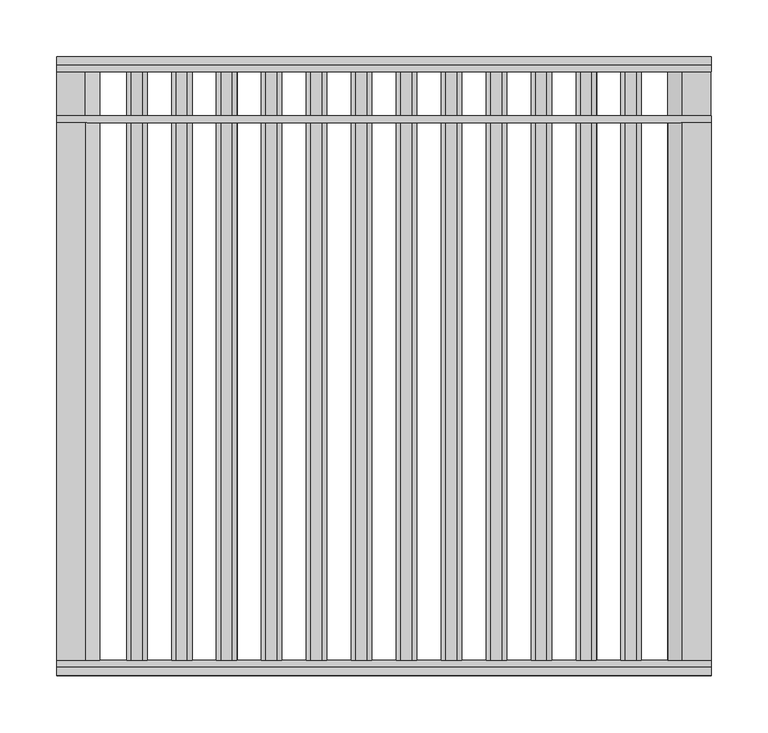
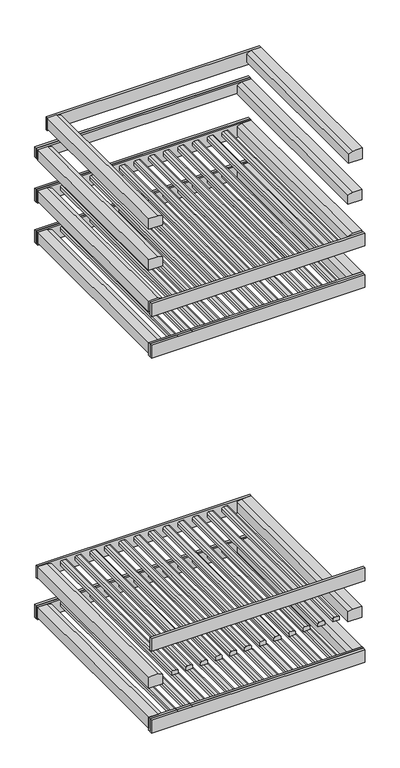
"""IFC4 building model written with IfcOpenShell, lengths in millimetres: proxy geometry, 12443600_AUS_KWT4999F_OBWS : 39499962_AUS_12443600_KWT4999F_OBWS."""

from ifc_helpers import new_model, si_unit, point, frame, frame_2d, origin, place, context, project, spatial, polyline, circle_curve, trimmed, segment, composite_curve, outline, extrude, source, transform, mapped, element, save


def specialty_equipment_cc0d7ca1(model_context):
    return source(origin(), model_context, "Body", "SweptSolid", [
        extrude(outline(polyline([(287.5, -697.1349254), (-287.5, -697.1349254), (-287.5, -689.7655853), (287.5, -689.7655853), (287.5, -697.1349254)])), frame((0.0, 0.0, 614.7318744), z_axis=(0.0, 0.0, 1.0), x_axis=(1.0, 0.0, 0.0)), (0.0, 0.0, 1.0), 36.2681256),
        extrude(outline(composite_curve([segment(polyline([(409.0, -226.25), (401.0, -226.25), (401.0, -208.25), (409.0, -208.25)]), True, "CONTINUOUS"), segment(trimmed(circle_curve(frame_2d((409.0, -212.25)), 4.0), [point((409.0, -208.25))], [point((413.0, -212.25))], False, "CARTESIAN"), True, "CONTINUOUS"), segment(polyline([(413.0, -212.25), (413.0, -222.25)]), True, "CONTINUOUS"), segment(trimmed(circle_curve(frame_2d((409.0, -222.25)), 4.0), [point((413.0, -222.25))], [point((409.0, -226.25))], False, "CARTESIAN"), True, "CONTINUOUS")], self_intersect=False)), frame((0.0, -683.7655853, 0.0), z_axis=(0.0, 1.0, 0.0), x_axis=(0.0, 0.0, 1.0)), (0.0, 0.0, 1.0), 517.2655853),
        extrude(outline(composite_curve([segment(polyline([(409.0, -186.75), (401.0, -186.75), (401.0, -168.75), (409.0, -168.75)]), True, "CONTINUOUS"), segment(trimmed(circle_curve(frame_2d((409.0, -172.75)), 4.0), [point((409.0, -168.75))], [point((413.0, -172.75))], False, "CARTESIAN"), True, "CONTINUOUS"), segment(polyline([(413.0, -172.75), (413.0, -182.75)]), True, "CONTINUOUS"), segment(trimmed(circle_curve(frame_2d((409.0, -182.75)), 4.0), [point((413.0, -182.75))], [point((409.0, -186.75))], False, "CARTESIAN"), True, "CONTINUOUS")], self_intersect=False)), frame((0.0, -683.7655853, 0.0), z_axis=(0.0, 1.0, 0.0), x_axis=(0.0, 0.0, 1.0)), (0.0, 0.0, 1.0), 517.2655853),
        extrude(outline(composite_curve([segment(polyline([(409.0, -147.25), (401.0, -147.25), (401.0, -129.25), (409.0, -129.25)]), True, "CONTINUOUS"), segment(trimmed(circle_curve(frame_2d((409.0, -133.25)), 4.0), [point((409.0, -129.25))], [point((413.0, -133.25))], False, "CARTESIAN"), True, "CONTINUOUS"), segment(polyline([(413.0, -133.25), (413.0, -143.25)]), True, "CONTINUOUS"), segment(trimmed(circle_curve(frame_2d((409.0, -143.25)), 4.0), [point((413.0, -143.25))], [point((409.0, -147.25))], False, "CARTESIAN"), True, "CONTINUOUS")], self_intersect=False)), frame((0.0, -683.7655853, 0.0), z_axis=(0.0, 1.0, 0.0), x_axis=(0.0, 0.0, 1.0)), (0.0, 0.0, 1.0), 517.2655853),
        extrude(outline(composite_curve([segment(trimmed(circle_curve(frame_2d((409.0, 143.25)), 4.0), [point((409.0, 147.25))], [point((413.0, 143.25))], False, "CARTESIAN"), True, "CONTINUOUS"), segment(polyline([(413.0, 143.25), (413.0, 133.25)]), True, "CONTINUOUS"), segment(trimmed(circle_curve(frame_2d((409.0, 133.25)), 4.0), [point((413.0, 133.25))], [point((409.0, 129.25))], False, "CARTESIAN"), True, "CONTINUOUS"), segment(polyline([(409.0, 129.25), (401.0, 129.25), (401.0, 147.25), (409.0, 147.25)]), True, "CONTINUOUS")], self_intersect=False)), frame((0.0, -683.7655853, 0.0), z_axis=(0.0, 1.0, 0.0), x_axis=(0.0, 0.0, 1.0)), (0.0, 0.0, 1.0), 517.2655853),
        extrude(outline(composite_curve([segment(trimmed(circle_curve(frame_2d((409.0, 64.25)), 4.0), [point((409.0, 68.25))], [point((413.0, 64.25))], False, "CARTESIAN"), True, "CONTINUOUS"), segment(polyline([(413.0, 64.25), (413.0, 54.25)]), True, "CONTINUOUS"), segment(trimmed(circle_curve(frame_2d((409.0, 54.25)), 4.0), [point((413.0, 54.25))], [point((409.0, 50.25))], False, "CARTESIAN"), True, "CONTINUOUS"), segment(polyline([(409.0, 50.25), (401.0, 50.25), (401.0, 68.25), (409.0, 68.25)]), True, "CONTINUOUS")], self_intersect=False)), frame((0.0, -683.7655853, 0.0), z_axis=(0.0, 1.0, 0.0), x_axis=(0.0, 0.0, 1.0)), (0.0, 0.0, 1.0), 517.2655853),
        extrude(outline(composite_curve([segment(trimmed(circle_curve(frame_2d((409.0, 103.75)), 4.0), [point((409.0, 107.75))], [point((413.0, 103.75))], False, "CARTESIAN"), True, "CONTINUOUS"), segment(polyline([(413.0, 103.75), (413.0, 93.75)]), True, "CONTINUOUS"), segment(trimmed(circle_curve(frame_2d((409.0, 93.75)), 4.0), [point((413.0, 93.75))], [point((409.0, 89.75))], False, "CARTESIAN"), True, "CONTINUOUS"), segment(polyline([(409.0, 89.75), (401.0, 89.75), (401.0, 107.75), (409.0, 107.75)]), True, "CONTINUOUS")], self_intersect=False)), frame((0.0, -683.7655853, 0.0), z_axis=(0.0, 1.0, 0.0), x_axis=(0.0, 0.0, 1.0)), (0.0, 0.0, 1.0), 517.2655853),
        extrude(outline(composite_curve([segment(polyline([(409.0, -107.75), (401.0, -107.75), (401.0, -89.75), (409.0, -89.75)]), True, "CONTINUOUS"), segment(trimmed(circle_curve(frame_2d((409.0, -93.75)), 4.0), [point((409.0, -89.75))], [point((413.0, -93.75))], False, "CARTESIAN"), True, "CONTINUOUS"), segment(polyline([(413.0, -93.75), (413.0, -103.75)]), True, "CONTINUOUS"), segment(trimmed(circle_curve(frame_2d((409.0, -103.75)), 4.0), [point((413.0, -103.75))], [point((409.0, -107.75))], False, "CARTESIAN"), True, "CONTINUOUS")], self_intersect=False)), frame((0.0, -683.7655853, 0.0), z_axis=(0.0, 1.0, 0.0), x_axis=(0.0, 0.0, 1.0)), (0.0, 0.0, 1.0), 517.2655853),
        extrude(outline(composite_curve([segment(trimmed(circle_curve(frame_2d((409.0, -54.25)), 4.0), [point((409.0, -50.25))], [point((413.0, -54.25))], False, "CARTESIAN"), True, "CONTINUOUS"), segment(polyline([(413.0, -54.25), (413.0, -64.25)]), True, "CONTINUOUS"), segment(trimmed(circle_curve(frame_2d((409.0, -64.25)), 4.0), [point((413.0, -64.25))], [point((409.0, -68.25))], False, "CARTESIAN"), True, "CONTINUOUS"), segment(polyline([(409.0, -68.25), (401.0, -68.25), (401.0, -50.25), (409.0, -50.25)]), True, "CONTINUOUS")], self_intersect=False)), frame((0.0, -683.7655853, 0.0), z_axis=(0.0, 1.0, 0.0), x_axis=(0.0, 0.0, 1.0)), (0.0, 0.0, 1.0), 517.2655853),
        extrude(outline(composite_curve([segment(trimmed(circle_curve(frame_2d((409.0, 24.75)), 4.0), [point((409.0, 28.75))], [point((413.0, 24.75))], False, "CARTESIAN"), True, "CONTINUOUS"), segment(polyline([(413.0, 24.75), (413.0, 14.75)]), True, "CONTINUOUS"), segment(trimmed(circle_curve(frame_2d((409.0, 14.75)), 4.0), [point((413.0, 14.75))], [point((409.0, 10.75))], False, "CARTESIAN"), True, "CONTINUOUS"), segment(polyline([(409.0, 10.75), (401.0, 10.75), (401.0, 28.75), (409.0, 28.75)]), True, "CONTINUOUS")], self_intersect=False)), frame((0.0, -683.7655853, 0.0), z_axis=(0.0, 1.0, 0.0), x_axis=(0.0, 0.0, 1.0)), (0.0, 0.0, 1.0), 517.2655853),
        extrude(outline(composite_curve([segment(polyline([(409.0, -28.75), (401.0, -28.75), (401.0, -10.75), (409.0, -10.75)]), True, "CONTINUOUS"), segment(trimmed(circle_curve(frame_2d((409.0, -14.75)), 4.0), [point((409.0, -10.75))], [point((413.0, -14.75))], False, "CARTESIAN"), True, "CONTINUOUS"), segment(polyline([(413.0, -14.75), (413.0, -24.75)]), True, "CONTINUOUS"), segment(trimmed(circle_curve(frame_2d((409.0, -24.75)), 4.0), [point((413.0, -24.75))], [point((409.0, -28.75))], False, "CARTESIAN"), True, "CONTINUOUS")], self_intersect=False)), frame((0.0, -683.7655853, 0.0), z_axis=(0.0, 1.0, 0.0), x_axis=(0.0, 0.0, 1.0)), (0.0, 0.0, 1.0), 517.2655853),
        extrude(outline(composite_curve([segment(trimmed(circle_curve(frame_2d((409.0, 222.25)), 4.0), [point((409.0, 226.25))], [point((413.0, 222.25))], False, "CARTESIAN"), True, "CONTINUOUS"), segment(polyline([(413.0, 222.25), (413.0, 212.25)]), True, "CONTINUOUS"), segment(trimmed(circle_curve(frame_2d((409.0, 212.25)), 4.0), [point((413.0, 212.25))], [point((409.0, 208.25))], False, "CARTESIAN"), True, "CONTINUOUS"), segment(polyline([(409.0, 208.25), (401.0, 208.25), (401.0, 226.25), (409.0, 226.25)]), True, "CONTINUOUS")], self_intersect=False)), frame((0.0, -683.7655853, 0.0), z_axis=(0.0, 1.0, 0.0), x_axis=(0.0, 0.0, 1.0)), (0.0, 0.0, 1.0), 517.2655853),
        extrude(outline(composite_curve([segment(trimmed(circle_curve(frame_2d((409.0, 182.75)), 4.0), [point((409.0, 186.75))], [point((413.0, 182.75))], False, "CARTESIAN"), True, "CONTINUOUS"), segment(polyline([(413.0, 182.75), (413.0, 172.75)]), True, "CONTINUOUS"), segment(trimmed(circle_curve(frame_2d((409.0, 172.75)), 4.0), [point((413.0, 172.75))], [point((409.0, 168.75))], False, "CARTESIAN"), True, "CONTINUOUS"), segment(polyline([(409.0, 168.75), (401.0, 168.75), (401.0, 186.75), (409.0, 186.75)]), True, "CONTINUOUS")], self_intersect=False)), frame((0.0, -683.7655853, 0.0), z_axis=(0.0, 1.0, 0.0), x_axis=(0.0, 0.0, 1.0)), (0.0, 0.0, 1.0), 517.2655853),
        extrude(outline(composite_curve([segment(polyline([(525.0, -226.1827793), (517.0, -226.1827793), (517.0, -208.1827793), (525.0, -208.1827793)]), True, "CONTINUOUS"), segment(trimmed(circle_curve(frame_2d((525.0, -212.1827793)), 4.0), [point((525.0, -208.1827793))], [point((529.0, -212.1827793))], False, "CARTESIAN"), True, "CONTINUOUS"), segment(polyline([(529.0, -212.1827793), (529.0, -222.1827793)]), True, "CONTINUOUS"), segment(trimmed(circle_curve(frame_2d((525.0, -222.1827793)), 4.0), [point((529.0, -222.1827793))], [point((525.0, -226.1827793))], False, "CARTESIAN"), True, "CONTINUOUS")], self_intersect=False)), frame((0.0, -683.7655853, 0.0), z_axis=(0.0, 1.0, 0.0), x_axis=(0.0, 0.0, 1.0)), (0.0, 0.0, 1.0), 517.2655853),
        extrude(outline(composite_curve([segment(polyline([(525.0, -186.6827793), (517.0, -186.6827793), (517.0, -168.6827793), (525.0, -168.6827793)]), True, "CONTINUOUS"), segment(trimmed(circle_curve(frame_2d((525.0, -172.6827793)), 4.0), [point((525.0, -168.6827793))], [point((529.0, -172.6827793))], False, "CARTESIAN"), True, "CONTINUOUS"), segment(polyline([(529.0, -172.6827793), (529.0, -182.6827793)]), True, "CONTINUOUS"), segment(trimmed(circle_curve(frame_2d((525.0, -182.6827793)), 4.0), [point((529.0, -182.6827793))], [point((525.0, -186.6827793))], False, "CARTESIAN"), True, "CONTINUOUS")], self_intersect=False)), frame((0.0, -683.7655853, 0.0), z_axis=(0.0, 1.0, 0.0), x_axis=(0.0, 0.0, 1.0)), (0.0, 0.0, 1.0), 517.2655853),
        extrude(outline(composite_curve([segment(polyline([(525.0, -147.1827793), (517.0, -147.1827793), (517.0, -129.1827793), (525.0, -129.1827793)]), True, "CONTINUOUS"), segment(trimmed(circle_curve(frame_2d((525.0, -133.1827793)), 4.0), [point((525.0, -129.1827793))], [point((529.0, -133.1827793))], False, "CARTESIAN"), True, "CONTINUOUS"), segment(polyline([(529.0, -133.1827793), (529.0, -143.1827793)]), True, "CONTINUOUS"), segment(trimmed(circle_curve(frame_2d((525.0, -143.1827793)), 4.0), [point((529.0, -143.1827793))], [point((525.0, -147.1827793))], False, "CARTESIAN"), True, "CONTINUOUS")], self_intersect=False)), frame((0.0, -683.7655853, 0.0), z_axis=(0.0, 1.0, 0.0), x_axis=(0.0, 0.0, 1.0)), (0.0, 0.0, 1.0), 517.2655853),
        extrude(outline(composite_curve([segment(trimmed(circle_curve(frame_2d((525.0, 143.3172207)), 4.0), [point((525.0, 147.3172207))], [point((529.0, 143.3172207))], False, "CARTESIAN"), True, "CONTINUOUS"), segment(polyline([(529.0, 143.3172207), (529.0, 133.3172207)]), True, "CONTINUOUS"), segment(trimmed(circle_curve(frame_2d((525.0, 133.3172207)), 4.0), [point((529.0, 133.3172207))], [point((525.0, 129.3172207))], False, "CARTESIAN"), True, "CONTINUOUS"), segment(polyline([(525.0, 129.3172207), (517.0, 129.3172207), (517.0, 147.3172207), (525.0, 147.3172207)]), True, "CONTINUOUS")], self_intersect=False)), frame((0.0, -683.7655853, 0.0), z_axis=(0.0, 1.0, 0.0), x_axis=(0.0, 0.0, 1.0)), (0.0, 0.0, 1.0), 517.2655853),
        extrude(outline(composite_curve([segment(trimmed(circle_curve(frame_2d((525.0, 64.3172207)), 4.0), [point((525.0, 68.3172207))], [point((529.0, 64.3172207))], False, "CARTESIAN"), True, "CONTINUOUS"), segment(polyline([(529.0, 64.3172207), (529.0, 54.3172207)]), True, "CONTINUOUS"), segment(trimmed(circle_curve(frame_2d((525.0, 54.3172207)), 4.0), [point((529.0, 54.3172207))], [point((525.0, 50.3172207))], False, "CARTESIAN"), True, "CONTINUOUS"), segment(polyline([(525.0, 50.3172207), (517.0, 50.3172207), (517.0, 68.3172207), (525.0, 68.3172207)]), True, "CONTINUOUS")], self_intersect=False)), frame((0.0, -683.7655853, 0.0), z_axis=(0.0, 1.0, 0.0), x_axis=(0.0, 0.0, 1.0)), (0.0, 0.0, 1.0), 517.2655853),
        extrude(outline(composite_curve([segment(trimmed(circle_curve(frame_2d((525.0, 103.8172207)), 4.0), [point((525.0, 107.8172207))], [point((529.0, 103.8172207))], False, "CARTESIAN"), True, "CONTINUOUS"), segment(polyline([(529.0, 103.8172207), (529.0, 93.8172207)]), True, "CONTINUOUS"), segment(trimmed(circle_curve(frame_2d((525.0, 93.8172207)), 4.0), [point((529.0, 93.8172207))], [point((525.0, 89.8172207))], False, "CARTESIAN"), True, "CONTINUOUS"), segment(polyline([(525.0, 89.8172207), (517.0, 89.8172207), (517.0, 107.8172207), (525.0, 107.8172207)]), True, "CONTINUOUS")], self_intersect=False)), frame((0.0, -683.7655853, 0.0), z_axis=(0.0, 1.0, 0.0), x_axis=(0.0, 0.0, 1.0)), (0.0, 0.0, 1.0), 517.2655853),
        extrude(outline(composite_curve([segment(polyline([(525.0, -107.6827793), (517.0, -107.6827793), (517.0, -89.6827793), (525.0, -89.6827793)]), True, "CONTINUOUS"), segment(trimmed(circle_curve(frame_2d((525.0, -93.6827793)), 4.0), [point((525.0, -89.6827793))], [point((529.0, -93.6827793))], False, "CARTESIAN"), True, "CONTINUOUS"), segment(polyline([(529.0, -93.6827793), (529.0, -103.6827793)]), True, "CONTINUOUS"), segment(trimmed(circle_curve(frame_2d((525.0, -103.6827793)), 4.0), [point((529.0, -103.6827793))], [point((525.0, -107.6827793))], False, "CARTESIAN"), True, "CONTINUOUS")], self_intersect=False)), frame((0.0, -683.7655853, 0.0), z_axis=(0.0, 1.0, 0.0), x_axis=(0.0, 0.0, 1.0)), (0.0, 0.0, 1.0), 517.2655853),
        extrude(outline(composite_curve([segment(trimmed(circle_curve(frame_2d((525.0, -54.1827793)), 4.0), [point((525.0, -50.1827793))], [point((529.0, -54.1827793))], False, "CARTESIAN"), True, "CONTINUOUS"), segment(polyline([(529.0, -54.1827793), (529.0, -64.1827793)]), True, "CONTINUOUS"), segment(trimmed(circle_curve(frame_2d((525.0, -64.1827793)), 4.0), [point((529.0, -64.1827793))], [point((525.0, -68.1827793))], False, "CARTESIAN"), True, "CONTINUOUS"), segment(polyline([(525.0, -68.1827793), (517.0, -68.1827793), (517.0, -50.1827793), (525.0, -50.1827793)]), True, "CONTINUOUS")], self_intersect=False)), frame((0.0, -683.7655853, 0.0), z_axis=(0.0, 1.0, 0.0), x_axis=(0.0, 0.0, 1.0)), (0.0, 0.0, 1.0), 517.2655853),
        extrude(outline(composite_curve([segment(trimmed(circle_curve(frame_2d((525.0, 24.8172207)), 4.0), [point((525.0, 28.8172207))], [point((529.0, 24.8172207))], False, "CARTESIAN"), True, "CONTINUOUS"), segment(polyline([(529.0, 24.8172207), (529.0, 14.8172207)]), True, "CONTINUOUS"), segment(trimmed(circle_curve(frame_2d((525.0, 14.8172207)), 4.0), [point((529.0, 14.8172207))], [point((525.0, 10.8172207))], False, "CARTESIAN"), True, "CONTINUOUS"), segment(polyline([(525.0, 10.8172207), (517.0, 10.8172207), (517.0, 28.8172207), (525.0, 28.8172207)]), True, "CONTINUOUS")], self_intersect=False)), frame((0.0, -683.7655853, 0.0), z_axis=(0.0, 1.0, 0.0), x_axis=(0.0, 0.0, 1.0)), (0.0, 0.0, 1.0), 517.2655853),
        extrude(outline(composite_curve([segment(polyline([(525.0, -28.6827793), (517.0, -28.6827793), (517.0, -10.6827793), (525.0, -10.6827793)]), True, "CONTINUOUS"), segment(trimmed(circle_curve(frame_2d((525.0, -14.6827793)), 4.0), [point((525.0, -10.6827793))], [point((529.0, -14.6827793))], False, "CARTESIAN"), True, "CONTINUOUS"), segment(polyline([(529.0, -14.6827793), (529.0, -24.6827793)]), True, "CONTINUOUS"), segment(trimmed(circle_curve(frame_2d((525.0, -24.6827793)), 4.0), [point((529.0, -24.6827793))], [point((525.0, -28.6827793))], False, "CARTESIAN"), True, "CONTINUOUS")], self_intersect=False)), frame((0.0, -683.7655853, 0.0), z_axis=(0.0, 1.0, 0.0), x_axis=(0.0, 0.0, 1.0)), (0.0, 0.0, 1.0), 517.2655853),
        extrude(outline(composite_curve([segment(trimmed(circle_curve(frame_2d((525.0, 222.3172207)), 4.0), [point((525.0, 226.3172207))], [point((529.0, 222.3172207))], False, "CARTESIAN"), True, "CONTINUOUS"), segment(polyline([(529.0, 222.3172207), (529.0, 212.3172207)]), True, "CONTINUOUS"), segment(trimmed(circle_curve(frame_2d((525.0, 212.3172207)), 4.0), [point((529.0, 212.3172207))], [point((525.0, 208.3172207))], False, "CARTESIAN"), True, "CONTINUOUS"), segment(polyline([(525.0, 208.3172207), (517.0, 208.3172207), (517.0, 226.3172207), (525.0, 226.3172207)]), True, "CONTINUOUS")], self_intersect=False)), frame((0.0, -683.7655853, 0.0), z_axis=(0.0, 1.0, 0.0), x_axis=(0.0, 0.0, 1.0)), (0.0, 0.0, 1.0), 517.2655853),
        extrude(outline(composite_curve([segment(trimmed(circle_curve(frame_2d((525.0, 182.8172207)), 4.0), [point((525.0, 186.8172207))], [point((529.0, 182.8172207))], False, "CARTESIAN"), True, "CONTINUOUS"), segment(polyline([(529.0, 182.8172207), (529.0, 172.8172207)]), True, "CONTINUOUS"), segment(trimmed(circle_curve(frame_2d((525.0, 172.8172207)), 4.0), [point((529.0, 172.8172207))], [point((525.0, 168.8172207))], False, "CARTESIAN"), True, "CONTINUOUS"), segment(polyline([(525.0, 168.8172207), (517.0, 168.8172207), (517.0, 186.8172207), (525.0, 186.8172207)]), True, "CONTINUOUS")], self_intersect=False)), frame((0.0, -683.7655853, 0.0), z_axis=(0.0, 1.0, 0.0), x_axis=(0.0, 0.0, 1.0)), (0.0, 0.0, 1.0), 517.2655853),
        extrude(outline(polyline([(287.5, -160.5), (-287.5, -160.5), (-287.5, -153.5), (287.5, -153.5), (287.5, -160.5)])), frame((0.0, 0.0, 382.7318744), z_axis=(0.0, 0.0, 1.0), x_axis=(1.0, 0.0, 0.0)), (0.0, 0.0, 1.0), 36.2681256),
        extrude(outline(polyline([(389.0, -250.0), (414.4686279, -250.0), (419.0, -262.4499969), (419.0, -287.5), (389.0, -287.5), (389.0, -250.0)])), frame((0.0, -683.7655853, 0.0), z_axis=(0.0, 1.0, 0.0), x_axis=(0.0, 0.0, 1.0)), (0.0, 0.0, 1.0), 517.2655853),
        extrude(outline(polyline([(389.0, 249.6000061), (389.0, 287.3000031), (419.0, 287.3000031), (419.0, 262.0500031), (414.4686279, 249.6000061), (389.0, 249.6000061)])), frame((0.0, -683.7655853, 0.0), z_axis=(0.0, 1.0, 0.0), x_axis=(0.0, 0.0, 1.0)), (0.0, 0.0, 1.0), 517.2655853),
        extrude(outline(polyline([(502.5, -250.0), (529.4686279, -250.0), (534.0, -262.4499969), (534.0, -287.5), (502.5, -287.5), (502.5, -250.0)])), frame((0.0, -683.7655853, 0.0), z_axis=(0.0, 1.0, 0.0), x_axis=(0.0, 0.0, 1.0)), (0.0, 0.0, 1.0), 517.2655853),
        extrude(outline(polyline([(502.5, 249.6000061), (502.5, 287.3000031), (534.0, 287.3000031), (534.0, 262.0500031), (530.9007142, 249.6000061), (502.5, 249.6000061)])), frame((0.0, -683.7655853, 0.0), z_axis=(0.0, 1.0, 0.0), x_axis=(0.0, 0.0, 1.0)), (0.0, 0.0, 1.0), 517.2655853),
        extrude(outline(polyline([(287.5, -166.5), (-287.5, -166.5), (-287.5, -160.5), (287.5, -160.5), (287.5, -166.5)])), frame((0.0, 0.0, 382.7318744), z_axis=(0.0, 0.0, 1.0), x_axis=(1.0, 0.0, 0.0)), (0.0, 0.0, 1.0), 36.2681256),
        extrude(outline(polyline([(287.5, -166.5), (-287.5, -166.5), (-287.5, -160.5), (287.5, -160.5), (287.5, -166.5)])), frame((0.0, 0.0, 499.2318744), z_axis=(0.0, 0.0, 1.0), x_axis=(1.0, 0.0, 0.0)), (0.0, 0.0, 1.0), 35.7681256),
        extrude(outline(polyline([(287.5, -689.7655853), (-287.5, -689.7655853), (-287.5, -683.7655853), (287.5, -683.7655853), (287.5, -689.7655853)])), frame((0.0, 0.0, 383.0), z_axis=(0.0, 0.0, 1.0), x_axis=(1.0, 0.0, 0.0)), (0.0, 0.0, 1.0), 36.0),
        extrude(outline(polyline([(287.5, -697.1349254), (-287.5, -697.1349254), (-287.5, -689.7655853), (287.5, -689.7655853), (287.5, -697.1349254)])), frame((0.0, 0.0, 382.7318744), z_axis=(0.0, 0.0, 1.0), x_axis=(1.0, 0.0, 0.0)), (0.0, 0.0, 1.0), 36.2681256),
        extrude(outline(composite_curve([segment(polyline([(1475.2318744, -226.25), (1467.2318744, -226.25), (1467.2318744, -208.25), (1475.2318744, -208.25)]), True, "CONTINUOUS"), segment(trimmed(circle_curve(frame_2d((1475.2318744, -212.25)), 4.0), [point((1475.2318744, -208.25))], [point((1479.2318744, -212.25))], False, "CARTESIAN"), True, "CONTINUOUS"), segment(polyline([(1479.2318744, -212.25), (1479.2318744, -222.25)]), True, "CONTINUOUS"), segment(trimmed(circle_curve(frame_2d((1475.2318744, -222.25)), 4.0), [point((1479.2318744, -222.25))], [point((1475.2318744, -226.25))], False, "CARTESIAN"), True, "CONTINUOUS")], self_intersect=False)), frame((0.0, -683.7655853, 0.0), z_axis=(0.0, 1.0, 0.0), x_axis=(0.0, 0.0, 1.0)), (0.0, 0.0, 1.0), 517.2655853),
        extrude(outline(composite_curve([segment(polyline([(1475.2318744, -186.75), (1467.2318744, -186.75), (1467.2318744, -168.75), (1475.2318744, -168.75)]), True, "CONTINUOUS"), segment(trimmed(circle_curve(frame_2d((1475.2318744, -172.75)), 4.0), [point((1475.2318744, -168.75))], [point((1479.2318744, -172.75))], False, "CARTESIAN"), True, "CONTINUOUS"), segment(polyline([(1479.2318744, -172.75), (1479.2318744, -182.75)]), True, "CONTINUOUS"), segment(trimmed(circle_curve(frame_2d((1475.2318744, -182.75)), 4.0), [point((1479.2318744, -182.75))], [point((1475.2318744, -186.75))], False, "CARTESIAN"), True, "CONTINUOUS")], self_intersect=False)), frame((0.0, -683.7655853, 0.0), z_axis=(0.0, 1.0, 0.0), x_axis=(0.0, 0.0, 1.0)), (0.0, 0.0, 1.0), 517.2655853),
        extrude(outline(composite_curve([segment(polyline([(1475.2318744, -147.25), (1467.2318744, -147.25), (1467.2318744, -129.25), (1475.2318744, -129.25)]), True, "CONTINUOUS"), segment(trimmed(circle_curve(frame_2d((1475.2318744, -133.25)), 4.0), [point((1475.2318744, -129.25))], [point((1479.2318744, -133.25))], False, "CARTESIAN"), True, "CONTINUOUS"), segment(polyline([(1479.2318744, -133.25), (1479.2318744, -143.25)]), True, "CONTINUOUS"), segment(trimmed(circle_curve(frame_2d((1475.2318744, -143.25)), 4.0), [point((1479.2318744, -143.25))], [point((1475.2318744, -147.25))], False, "CARTESIAN"), True, "CONTINUOUS")], self_intersect=False)), frame((0.0, -683.7655853, 0.0), z_axis=(0.0, 1.0, 0.0), x_axis=(0.0, 0.0, 1.0)), (0.0, 0.0, 1.0), 517.2655853),
        extrude(outline(composite_curve([segment(trimmed(circle_curve(frame_2d((1475.2318744, 143.25)), 4.0), [point((1475.2318744, 147.25))], [point((1479.2318744, 143.25))], False, "CARTESIAN"), True, "CONTINUOUS"), segment(polyline([(1479.2318744, 143.25), (1479.2318744, 133.25)]), True, "CONTINUOUS"), segment(trimmed(circle_curve(frame_2d((1475.2318744, 133.25)), 4.0), [point((1479.2318744, 133.25))], [point((1475.2318744, 129.25))], False, "CARTESIAN"), True, "CONTINUOUS"), segment(polyline([(1475.2318744, 129.25), (1467.2318744, 129.25), (1467.2318744, 147.25), (1475.2318744, 147.25)]), True, "CONTINUOUS")], self_intersect=False)), frame((0.0, -683.7655853, 0.0), z_axis=(0.0, 1.0, 0.0), x_axis=(0.0, 0.0, 1.0)), (0.0, 0.0, 1.0), 517.2655853),
        extrude(outline(composite_curve([segment(trimmed(circle_curve(frame_2d((1475.2318744, 64.25)), 4.0), [point((1475.2318744, 68.25))], [point((1479.2318744, 64.25))], False, "CARTESIAN"), True, "CONTINUOUS"), segment(polyline([(1479.2318744, 64.25), (1479.2318744, 54.25)]), True, "CONTINUOUS"), segment(trimmed(circle_curve(frame_2d((1475.2318744, 54.25)), 4.0), [point((1479.2318744, 54.25))], [point((1475.2318744, 50.25))], False, "CARTESIAN"), True, "CONTINUOUS"), segment(polyline([(1475.2318744, 50.25), (1467.2318744, 50.25), (1467.2318744, 68.25), (1475.2318744, 68.25)]), True, "CONTINUOUS")], self_intersect=False)), frame((0.0, -683.7655853, 0.0), z_axis=(0.0, 1.0, 0.0), x_axis=(0.0, 0.0, 1.0)), (0.0, 0.0, 1.0), 517.2655853),
        extrude(outline(composite_curve([segment(trimmed(circle_curve(frame_2d((1475.2318744, 103.75)), 4.0), [point((1475.2318744, 107.75))], [point((1479.2318744, 103.75))], False, "CARTESIAN"), True, "CONTINUOUS"), segment(polyline([(1479.2318744, 103.75), (1479.2318744, 93.75)]), True, "CONTINUOUS"), segment(trimmed(circle_curve(frame_2d((1475.2318744, 93.75)), 4.0), [point((1479.2318744, 93.75))], [point((1475.2318744, 89.75))], False, "CARTESIAN"), True, "CONTINUOUS"), segment(polyline([(1475.2318744, 89.75), (1467.2318744, 89.75), (1467.2318744, 107.75), (1475.2318744, 107.75)]), True, "CONTINUOUS")], self_intersect=False)), frame((0.0, -683.7655853, 0.0), z_axis=(0.0, 1.0, 0.0), x_axis=(0.0, 0.0, 1.0)), (0.0, 0.0, 1.0), 517.2655853),
        extrude(outline(composite_curve([segment(polyline([(1475.2318744, -107.75), (1467.2318744, -107.75), (1467.2318744, -89.75), (1475.2318744, -89.75)]), True, "CONTINUOUS"), segment(trimmed(circle_curve(frame_2d((1475.2318744, -93.75)), 4.0), [point((1475.2318744, -89.75))], [point((1479.2318744, -93.75))], False, "CARTESIAN"), True, "CONTINUOUS"), segment(polyline([(1479.2318744, -93.75), (1479.2318744, -103.75)]), True, "CONTINUOUS"), segment(trimmed(circle_curve(frame_2d((1475.2318744, -103.75)), 4.0), [point((1479.2318744, -103.75))], [point((1475.2318744, -107.75))], False, "CARTESIAN"), True, "CONTINUOUS")], self_intersect=False)), frame((0.0, -683.7655853, 0.0), z_axis=(0.0, 1.0, 0.0), x_axis=(0.0, 0.0, 1.0)), (0.0, 0.0, 1.0), 517.2655853),
        extrude(outline(composite_curve([segment(trimmed(circle_curve(frame_2d((1475.2318744, -54.25)), 4.0), [point((1475.2318744, -50.25))], [point((1479.2318744, -54.25))], False, "CARTESIAN"), True, "CONTINUOUS"), segment(polyline([(1479.2318744, -54.25), (1479.2318744, -64.25)]), True, "CONTINUOUS"), segment(trimmed(circle_curve(frame_2d((1475.2318744, -64.25)), 4.0), [point((1479.2318744, -64.25))], [point((1475.2318744, -68.25))], False, "CARTESIAN"), True, "CONTINUOUS"), segment(polyline([(1475.2318744, -68.25), (1467.2318744, -68.25), (1467.2318744, -50.25), (1475.2318744, -50.25)]), True, "CONTINUOUS")], self_intersect=False)), frame((0.0, -683.7655853, 0.0), z_axis=(0.0, 1.0, 0.0), x_axis=(0.0, 0.0, 1.0)), (0.0, 0.0, 1.0), 517.2655853),
        extrude(outline(composite_curve([segment(trimmed(circle_curve(frame_2d((1475.2318744, 24.75)), 4.0), [point((1475.2318744, 28.75))], [point((1479.2318744, 24.75))], False, "CARTESIAN"), True, "CONTINUOUS"), segment(polyline([(1479.2318744, 24.75), (1479.2318744, 14.75)]), True, "CONTINUOUS"), segment(trimmed(circle_curve(frame_2d((1475.2318744, 14.75)), 4.0), [point((1479.2318744, 14.75))], [point((1475.2318744, 10.75))], False, "CARTESIAN"), True, "CONTINUOUS"), segment(polyline([(1475.2318744, 10.75), (1467.2318744, 10.75), (1467.2318744, 28.75), (1475.2318744, 28.75)]), True, "CONTINUOUS")], self_intersect=False)), frame((0.0, -683.7655853, 0.0), z_axis=(0.0, 1.0, 0.0), x_axis=(0.0, 0.0, 1.0)), (0.0, 0.0, 1.0), 517.2655853),
        extrude(outline(composite_curve([segment(polyline([(1475.2318744, -28.75), (1467.2318744, -28.75), (1467.2318744, -10.75), (1475.2318744, -10.75)]), True, "CONTINUOUS"), segment(trimmed(circle_curve(frame_2d((1475.2318744, -14.75)), 4.0), [point((1475.2318744, -10.75))], [point((1479.2318744, -14.75))], False, "CARTESIAN"), True, "CONTINUOUS"), segment(polyline([(1479.2318744, -14.75), (1479.2318744, -24.75)]), True, "CONTINUOUS"), segment(trimmed(circle_curve(frame_2d((1475.2318744, -24.75)), 4.0), [point((1479.2318744, -24.75))], [point((1475.2318744, -28.75))], False, "CARTESIAN"), True, "CONTINUOUS")], self_intersect=False)), frame((0.0, -683.7655853, 0.0), z_axis=(0.0, 1.0, 0.0), x_axis=(0.0, 0.0, 1.0)), (0.0, 0.0, 1.0), 517.2655853),
        extrude(outline(composite_curve([segment(trimmed(circle_curve(frame_2d((1475.2318744, 222.25)), 4.0), [point((1475.2318744, 226.25))], [point((1479.2318744, 222.25))], False, "CARTESIAN"), True, "CONTINUOUS"), segment(polyline([(1479.2318744, 222.25), (1479.2318744, 212.25)]), True, "CONTINUOUS"), segment(trimmed(circle_curve(frame_2d((1475.2318744, 212.25)), 4.0), [point((1479.2318744, 212.25))], [point((1475.2318744, 208.25))], False, "CARTESIAN"), True, "CONTINUOUS"), segment(polyline([(1475.2318744, 208.25), (1467.2318744, 208.25), (1467.2318744, 226.25), (1475.2318744, 226.25)]), True, "CONTINUOUS")], self_intersect=False)), frame((0.0, -683.7655853, 0.0), z_axis=(0.0, 1.0, 0.0), x_axis=(0.0, 0.0, 1.0)), (0.0, 0.0, 1.0), 517.2655853),
        extrude(outline(composite_curve([segment(trimmed(circle_curve(frame_2d((1475.2318744, 182.75)), 4.0), [point((1475.2318744, 186.75))], [point((1479.2318744, 182.75))], False, "CARTESIAN"), True, "CONTINUOUS"), segment(polyline([(1479.2318744, 182.75), (1479.2318744, 172.75)]), True, "CONTINUOUS"), segment(trimmed(circle_curve(frame_2d((1475.2318744, 172.75)), 4.0), [point((1479.2318744, 172.75))], [point((1475.2318744, 168.75))], False, "CARTESIAN"), True, "CONTINUOUS"), segment(polyline([(1475.2318744, 168.75), (1467.2318744, 168.75), (1467.2318744, 186.75), (1475.2318744, 186.75)]), True, "CONTINUOUS")], self_intersect=False)), frame((0.0, -683.7655853, 0.0), z_axis=(0.0, 1.0, 0.0), x_axis=(0.0, 0.0, 1.0)), (0.0, 0.0, 1.0), 517.2655853),
        extrude(outline(polyline([(287.5, -160.5), (-287.5, -160.5), (-287.5, -153.5), (287.5, -153.5), (287.5, -160.5)])), frame((0.0, 0.0, 1691.5700323), z_axis=(0.0, 0.0, 1.0), x_axis=(1.0, 0.0, 0.0)), (0.0, 0.0, 1.0), 28.7),
        extrude(outline(polyline([(287.5, -160.5), (-287.5, -160.5), (-287.5, -153.5), (287.5, -153.5), (287.5, -160.5)])), frame((0.0, 0.0, 1567.2318744), z_axis=(0.0, 0.0, 1.0), x_axis=(1.0, 0.0, 0.0)), (0.0, 0.0, 1.0), 35.7681256),
        extrude(outline(polyline([(287.5, -160.5), (-287.5, -160.5), (-287.5, -153.5), (287.5, -153.5), (287.5, -160.5)])), frame((0.0, 0.0, 1448.7318744), z_axis=(0.0, 0.0, 1.0), x_axis=(1.0, 0.0, 0.0)), (0.0, 0.0, 1.0), 36.2681256),
        extrude(outline(polyline([(287.5, -166.5), (-287.5, -166.5), (-287.5, -160.5), (287.5, -160.5), (287.5, -166.5)])), frame((0.0, 0.0, 1448.7318744), z_axis=(0.0, 0.0, 1.0), x_axis=(1.0, 0.0, 0.0)), (0.0, 0.0, 1.0), 36.2681256),
        extrude(outline(polyline([(287.5, -166.5), (-287.5, -166.5), (-287.5, -160.5), (287.5, -160.5), (287.5, -166.5)])), frame((0.0, 0.0, 1567.2318744), z_axis=(0.0, 0.0, 1.0), x_axis=(1.0, 0.0, 0.0)), (0.0, 0.0, 1.0), 35.7681256),
        extrude(outline(polyline([(287.5, -689.7655853), (-287.5, -689.7655853), (-287.5, -683.7655853), (287.5, -683.7655853), (287.5, -689.7655853)])), frame((0.0, 0.0, 1448.7318744), z_axis=(0.0, 0.0, 1.0), x_axis=(1.0, 0.0, 0.0)), (0.0, 0.0, 1.0), 36.2681256),
        extrude(outline(polyline([(287.5, -166.5), (-287.5, -166.5), (-287.5, -160.5), (287.5, -160.5), (287.5, -166.5)])), frame((0.0, 0.0, 1691.5700323), z_axis=(0.0, 0.0, 1.0), x_axis=(1.0, 0.0, 0.0)), (0.0, 0.0, 1.0), 28.7),
        extrude(outline(polyline([(1455.0, -250.0), (1480.4686279, -250.0), (1485.0, -262.4499969), (1485.0, -287.5), (1455.0, -287.5), (1455.0, -250.0)])), frame((0.0, -683.7655853, 0.0), z_axis=(0.0, 1.0, 0.0), x_axis=(0.0, 0.0, 1.0)), (0.0, 0.0, 1.0), 517.2655853),
        extrude(outline(polyline([(1455.0, 249.6000061), (1455.0, 287.3000031), (1485.0, 287.3000031), (1485.0, 262.0500031), (1480.4686279, 249.6000061), (1455.0, 249.6000061)])), frame((0.0, -683.7655853, 0.0), z_axis=(0.0, 1.0, 0.0), x_axis=(0.0, 0.0, 1.0)), (0.0, 0.0, 1.0), 517.2655853),
        extrude(outline(polyline([(1573.0, 249.6000061), (1573.0, 287.3000031), (1603.0, 287.3000031), (1603.0, 262.0500031), (1598.4686279, 249.6000061), (1573.0, 249.6000061)])), frame((0.0, -683.7655853, 0.0), z_axis=(0.0, 1.0, 0.0), x_axis=(0.0, 0.0, 1.0)), (0.0, 0.0, 1.0), 517.2655853),
        extrude(outline(polyline([(1573.0, -250.0), (1598.614212, -250.0), (1603.0, -262.0500031), (1603.0, -287.5), (1573.0, -287.5), (1573.0, -250.0)])), frame((0.0, -683.7655853, 0.0), z_axis=(0.0, 1.0, 0.0), x_axis=(0.0, 0.0, 1.0)), (0.0, 0.0, 1.0), 517.2655853),
        extrude(outline(composite_curve([segment(polyline([(1593.0, -226.25), (1585.0, -226.25), (1585.0, -208.25), (1593.0, -208.25)]), True, "CONTINUOUS"), segment(trimmed(circle_curve(frame_2d((1593.0, -212.25)), 4.0), [point((1593.0, -208.25))], [point((1597.0, -212.25))], False, "CARTESIAN"), True, "CONTINUOUS"), segment(polyline([(1597.0, -212.25), (1597.0, -222.25)]), True, "CONTINUOUS"), segment(trimmed(circle_curve(frame_2d((1593.0, -222.25)), 4.0), [point((1597.0, -222.25))], [point((1593.0, -226.25))], False, "CARTESIAN"), True, "CONTINUOUS")], self_intersect=False)), frame((0.0, -683.7655853, 0.0), z_axis=(0.0, 1.0, 0.0), x_axis=(0.0, 0.0, 1.0)), (0.0, 0.0, 1.0), 517.2655853),
        extrude(outline(composite_curve([segment(polyline([(1593.0, -186.75), (1585.0, -186.75), (1585.0, -168.75), (1593.0, -168.75)]), True, "CONTINUOUS"), segment(trimmed(circle_curve(frame_2d((1593.0, -172.75)), 4.0), [point((1593.0, -168.75))], [point((1597.0, -172.75))], False, "CARTESIAN"), True, "CONTINUOUS"), segment(polyline([(1597.0, -172.75), (1597.0, -182.75)]), True, "CONTINUOUS"), segment(trimmed(circle_curve(frame_2d((1593.0, -182.75)), 4.0), [point((1597.0, -182.75))], [point((1593.0, -186.75))], False, "CARTESIAN"), True, "CONTINUOUS")], self_intersect=False)), frame((0.0, -683.7655853, 0.0), z_axis=(0.0, 1.0, 0.0), x_axis=(0.0, 0.0, 1.0)), (0.0, 0.0, 1.0), 517.2655853),
        extrude(outline(composite_curve([segment(polyline([(1593.0, -147.25), (1585.0, -147.25), (1585.0, -129.25), (1593.0, -129.25)]), True, "CONTINUOUS"), segment(trimmed(circle_curve(frame_2d((1593.0, -133.25)), 4.0), [point((1593.0, -129.25))], [point((1597.0, -133.25))], False, "CARTESIAN"), True, "CONTINUOUS"), segment(polyline([(1597.0, -133.25), (1597.0, -143.25)]), True, "CONTINUOUS"), segment(trimmed(circle_curve(frame_2d((1593.0, -143.25)), 4.0), [point((1597.0, -143.25))], [point((1593.0, -147.25))], False, "CARTESIAN"), True, "CONTINUOUS")], self_intersect=False)), frame((0.0, -683.7655853, 0.0), z_axis=(0.0, 1.0, 0.0), x_axis=(0.0, 0.0, 1.0)), (0.0, 0.0, 1.0), 517.2655853),
        extrude(outline(composite_curve([segment(trimmed(circle_curve(frame_2d((1593.0, 143.25)), 4.0), [point((1593.0, 147.25))], [point((1597.0, 143.25))], False, "CARTESIAN"), True, "CONTINUOUS"), segment(polyline([(1597.0, 143.25), (1597.0, 133.25)]), True, "CONTINUOUS"), segment(trimmed(circle_curve(frame_2d((1593.0, 133.25)), 4.0), [point((1597.0, 133.25))], [point((1593.0, 129.25))], False, "CARTESIAN"), True, "CONTINUOUS"), segment(polyline([(1593.0, 129.25), (1585.0, 129.25), (1585.0, 147.25), (1593.0, 147.25)]), True, "CONTINUOUS")], self_intersect=False)), frame((0.0, -683.7655853, 0.0), z_axis=(0.0, 1.0, 0.0), x_axis=(0.0, 0.0, 1.0)), (0.0, 0.0, 1.0), 517.2655853),
        extrude(outline(composite_curve([segment(trimmed(circle_curve(frame_2d((1593.0, 64.25)), 4.0), [point((1593.0, 68.25))], [point((1597.0, 64.25))], False, "CARTESIAN"), True, "CONTINUOUS"), segment(polyline([(1597.0, 64.25), (1597.0, 54.25)]), True, "CONTINUOUS"), segment(trimmed(circle_curve(frame_2d((1593.0, 54.25)), 4.0), [point((1597.0, 54.25))], [point((1593.0, 50.25))], False, "CARTESIAN"), True, "CONTINUOUS"), segment(polyline([(1593.0, 50.25), (1585.0, 50.25), (1585.0, 68.25), (1593.0, 68.25)]), True, "CONTINUOUS")], self_intersect=False)), frame((0.0, -683.7655853, 0.0), z_axis=(0.0, 1.0, 0.0), x_axis=(0.0, 0.0, 1.0)), (0.0, 0.0, 1.0), 517.2655853),
        extrude(outline(composite_curve([segment(trimmed(circle_curve(frame_2d((1593.0, 103.75)), 4.0), [point((1593.0, 107.75))], [point((1597.0, 103.75))], False, "CARTESIAN"), True, "CONTINUOUS"), segment(polyline([(1597.0, 103.75), (1597.0, 93.75)]), True, "CONTINUOUS"), segment(trimmed(circle_curve(frame_2d((1593.0, 93.75)), 4.0), [point((1597.0, 93.75))], [point((1593.0, 89.75))], False, "CARTESIAN"), True, "CONTINUOUS"), segment(polyline([(1593.0, 89.75), (1585.0, 89.75), (1585.0, 107.75), (1593.0, 107.75)]), True, "CONTINUOUS")], self_intersect=False)), frame((0.0, -683.7655853, 0.0), z_axis=(0.0, 1.0, 0.0), x_axis=(0.0, 0.0, 1.0)), (0.0, 0.0, 1.0), 517.2655853),
        extrude(outline(composite_curve([segment(polyline([(1593.0, -107.75), (1585.0, -107.75), (1585.0, -89.75), (1593.0, -89.75)]), True, "CONTINUOUS"), segment(trimmed(circle_curve(frame_2d((1593.0, -93.75)), 4.0), [point((1593.0, -89.75))], [point((1597.0, -93.75))], False, "CARTESIAN"), True, "CONTINUOUS"), segment(polyline([(1597.0, -93.75), (1597.0, -103.75)]), True, "CONTINUOUS"), segment(trimmed(circle_curve(frame_2d((1593.0, -103.75)), 4.0), [point((1597.0, -103.75))], [point((1593.0, -107.75))], False, "CARTESIAN"), True, "CONTINUOUS")], self_intersect=False)), frame((0.0, -683.7655853, 0.0), z_axis=(0.0, 1.0, 0.0), x_axis=(0.0, 0.0, 1.0)), (0.0, 0.0, 1.0), 517.2655853),
        extrude(outline(composite_curve([segment(trimmed(circle_curve(frame_2d((1593.0, -54.25)), 4.0), [point((1593.0, -50.25))], [point((1597.0, -54.25))], False, "CARTESIAN"), True, "CONTINUOUS"), segment(polyline([(1597.0, -54.25), (1597.0, -64.25)]), True, "CONTINUOUS"), segment(trimmed(circle_curve(frame_2d((1593.0, -64.25)), 4.0), [point((1597.0, -64.25))], [point((1593.0, -68.25))], False, "CARTESIAN"), True, "CONTINUOUS"), segment(polyline([(1593.0, -68.25), (1585.0, -68.25), (1585.0, -50.25), (1593.0, -50.25)]), True, "CONTINUOUS")], self_intersect=False)), frame((0.0, -683.7655853, 0.0), z_axis=(0.0, 1.0, 0.0), x_axis=(0.0, 0.0, 1.0)), (0.0, 0.0, 1.0), 517.2655853),
        extrude(outline(composite_curve([segment(trimmed(circle_curve(frame_2d((1593.0, 24.75)), 4.0), [point((1593.0, 28.75))], [point((1597.0, 24.75))], False, "CARTESIAN"), True, "CONTINUOUS"), segment(polyline([(1597.0, 24.75), (1597.0, 14.75)]), True, "CONTINUOUS"), segment(trimmed(circle_curve(frame_2d((1593.0, 14.75)), 4.0), [point((1597.0, 14.75))], [point((1593.0, 10.75))], False, "CARTESIAN"), True, "CONTINUOUS"), segment(polyline([(1593.0, 10.75), (1585.0, 10.75), (1585.0, 28.75), (1593.0, 28.75)]), True, "CONTINUOUS")], self_intersect=False)), frame((0.0, -683.7655853, 0.0), z_axis=(0.0, 1.0, 0.0), x_axis=(0.0, 0.0, 1.0)), (0.0, 0.0, 1.0), 517.2655853),
        extrude(outline(composite_curve([segment(polyline([(1593.0, -28.75), (1585.0, -28.75), (1585.0, -10.75), (1593.0, -10.75)]), True, "CONTINUOUS"), segment(trimmed(circle_curve(frame_2d((1593.0, -14.75)), 4.0), [point((1593.0, -10.75))], [point((1597.0, -14.75))], False, "CARTESIAN"), True, "CONTINUOUS"), segment(polyline([(1597.0, -14.75), (1597.0, -24.75)]), True, "CONTINUOUS"), segment(trimmed(circle_curve(frame_2d((1593.0, -24.75)), 4.0), [point((1597.0, -24.75))], [point((1593.0, -28.75))], False, "CARTESIAN"), True, "CONTINUOUS")], self_intersect=False)), frame((0.0, -683.7655853, 0.0), z_axis=(0.0, 1.0, 0.0), x_axis=(0.0, 0.0, 1.0)), (0.0, 0.0, 1.0), 517.2655853),
        extrude(outline(composite_curve([segment(trimmed(circle_curve(frame_2d((1593.0, 222.25)), 4.0), [point((1593.0, 226.25))], [point((1597.0, 222.25))], False, "CARTESIAN"), True, "CONTINUOUS"), segment(polyline([(1597.0, 222.25), (1597.0, 212.25)]), True, "CONTINUOUS"), segment(trimmed(circle_curve(frame_2d((1593.0, 212.25)), 4.0), [point((1597.0, 212.25))], [point((1593.0, 208.25))], False, "CARTESIAN"), True, "CONTINUOUS"), segment(polyline([(1593.0, 208.25), (1585.0, 208.25), (1585.0, 226.25), (1593.0, 226.25)]), True, "CONTINUOUS")], self_intersect=False)), frame((0.0, -683.7655853, 0.0), z_axis=(0.0, 1.0, 0.0), x_axis=(0.0, 0.0, 1.0)), (0.0, 0.0, 1.0), 517.2655853),
        extrude(outline(composite_curve([segment(trimmed(circle_curve(frame_2d((1593.0, 182.75)), 4.0), [point((1593.0, 186.75))], [point((1597.0, 182.75))], False, "CARTESIAN"), True, "CONTINUOUS"), segment(polyline([(1597.0, 182.75), (1597.0, 172.75)]), True, "CONTINUOUS"), segment(trimmed(circle_curve(frame_2d((1593.0, 172.75)), 4.0), [point((1597.0, 172.75))], [point((1593.0, 168.75))], False, "CARTESIAN"), True, "CONTINUOUS"), segment(polyline([(1593.0, 168.75), (1585.0, 168.75), (1585.0, 186.75), (1593.0, 186.75)]), True, "CONTINUOUS")], self_intersect=False)), frame((0.0, -683.7655853, 0.0), z_axis=(0.0, 1.0, 0.0), x_axis=(0.0, 0.0, 1.0)), (0.0, 0.0, 1.0), 517.2655853),
        extrude(outline(polyline([(1690.3, -250.0), (1715.7686279, -250.0), (1720.3, -262.4499969), (1720.3, -287.5), (1690.3, -287.5), (1690.3, -250.0)])), frame((0.0, -683.7655853, 0.0), z_axis=(0.0, 1.0, 0.0), x_axis=(0.0, 0.0, 1.0)), (0.0, 0.0, 1.0), 517.2655853),
        extrude(outline(polyline([(1690.3, 249.6000061), (1690.3, 287.3000031), (1720.3, 287.3000031), (1720.3, 262.0500031), (1715.7686279, 249.6000061), (1690.3, 249.6000061)])), frame((0.0, -683.7655853, 0.0), z_axis=(0.0, 1.0, 0.0), x_axis=(0.0, 0.0, 1.0)), (0.0, 0.0, 1.0), 517.2655853),
        extrude(outline(polyline([(287.5, -697.1349254), (-287.5, -697.1349254), (-287.5, -689.7655853), (287.5, -689.7655853), (287.5, -697.1349254)])), frame((0.0, 0.0, 1567.2318744), z_axis=(0.0, 0.0, 1.0), x_axis=(1.0, 0.0, 0.0)), (0.0, 0.0, 1.0), 35.7681256),
        extrude(outline(polyline([(287.5, -697.1349254), (-287.5, -697.1349254), (-287.5, -689.7655853), (287.5, -689.7655853), (287.5, -697.1349254)])), frame((0.0, 0.0, 1448.7318744), z_axis=(0.0, 0.0, 1.0), x_axis=(1.0, 0.0, 0.0)), (0.0, 0.0, 1.0), 36.2681256),
        extrude(outline(polyline([(1807.0, -249.8000031), (1832.4686279, -249.8000031), (1837.0, -262.25), (1837.0, -287.5), (1807.0, -287.5), (1807.0, -249.8000031)])), frame((0.0, -683.7655853, 0.0), z_axis=(0.0, 1.0, 0.0), x_axis=(0.0, 0.0, 1.0)), (0.0, 0.0, 1.0), 472.325705),
        extrude(outline(polyline([(1807.0, 249.8000031), (1807.0, 287.5), (1837.0, 287.5), (1837.0, 262.25), (1832.4686279, 249.8000031), (1807.0, 249.8000031)])), frame((0.0, -683.7655853, 0.0), z_axis=(0.0, 1.0, 0.0), x_axis=(0.0, 0.0, 1.0)), (0.0, 0.0, 1.0), 472.325705),
        extrude(outline(polyline([(287.5, -211.4398803), (-287.5, -211.4398803), (-287.5, -205.4398803), (287.5, -205.4398803), (287.5, -211.4398803)])), frame((0.0, 0.0, 1800.7318744), z_axis=(0.0, 0.0, 1.0), x_axis=(1.0, 0.0, 0.0)), (0.0, 0.0, 1.0), 36.2681256),
    ])


if __name__ == "__main__":
    model = new_model("IFC4")
    model_context = context("Model", 3, world=origin())
    ifc_project = project(units=[si_unit("LENGTHUNIT", "METRE", prefix="MILLI")], contexts=[model_context])
    site = spatial("IfcSite", under=ifc_project)
    building = spatial("IfcBuilding", under=site)
    placement = place(None, origin())
    specialty_equipment_shape = specialty_equipment_cc0d7ca1(model_context)
    element("IfcBuildingElementProxy", 1, Name="12443600_AUS_KWT4999F_OBWS : 39499962_AUS_12443600_KWT4999F_OBWS", ObjectType="12443600_AUS_KWT4999F_OBWS : 39499962_AUS_12443600_KWT4999F_OBWS", at=placement, inside=building, context=model_context, shape_type="MappedRepresentation", body=[
        mapped(specialty_equipment_shape, transform((0.0, 0.0, 0.0), x_axis=(1.0, 0.0, 0.0), y_axis=(0.0, 1.0, 0.0), z_axis=(0.0, 0.0, 1.0))),
    ])
    save(model, "model.ifc")
